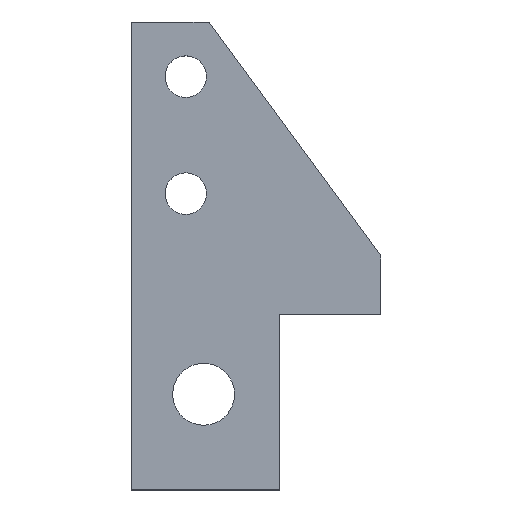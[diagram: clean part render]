
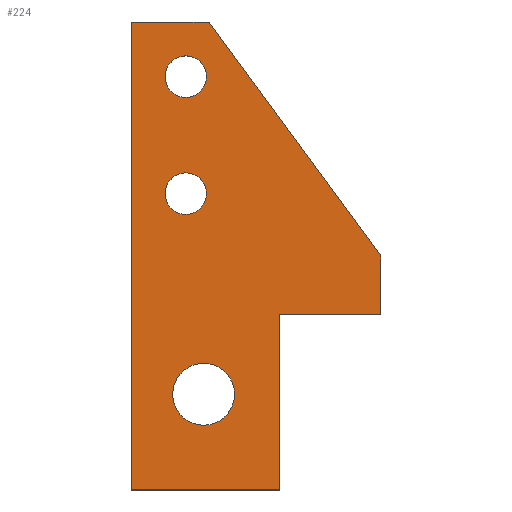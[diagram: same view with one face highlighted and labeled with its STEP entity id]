
A CAD part, top view. The second image highlights one B-rep face of the part: STEP entity #224.
In plain terms, the highlighted planar face has unit normal (0, 0, 1).
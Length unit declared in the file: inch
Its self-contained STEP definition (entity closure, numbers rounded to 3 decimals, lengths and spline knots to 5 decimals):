
#17=LINE('',#332,#38);
#21=LINE('',#339,#42);
#22=LINE('',#342,#43);
#25=LINE('',#348,#46);
#26=LINE('',#350,#47);
#27=LINE('',#352,#48);
#28=LINE('',#353,#49);
#38=VECTOR('',#274,1.125);
#42=VECTOR('',#280,0.65);
#43=VECTOR('',#283,0.95);
#46=VECTOR('',#288,0.375);
#47=VECTOR('',#289,1.86011);
#48=VECTOR('',#290,0.5);
#49=VECTOR('',#291,3.);
#60=PLANE('',#244);
#69=FACE_BOUND('',#97,.T.);
#70=FACE_BOUND('',#98,.T.);
#71=FACE_BOUND('',#99,.T.);
#81=FACE_OUTER_BOUND('',#96,.T.);
#96=EDGE_LOOP('',(#179,#180,#181,#182,#183,#184,#185));
#97=EDGE_LOOP('',(#186));
#98=EDGE_LOOP('',(#187));
#99=EDGE_LOOP('',(#188));
#108=CIRCLE('',#233,0.133);
#110=CIRCLE('',#236,0.133);
#112=CIRCLE('',#239,0.1985);
#114=VERTEX_POINT('',#311);
#116=VERTEX_POINT('',#316);
#118=VERTEX_POINT('',#321);
#122=VERTEX_POINT('',#329);
#123=VERTEX_POINT('',#331);
#125=VERTEX_POINT('',#337);
#126=VERTEX_POINT('',#341);
#128=VERTEX_POINT('',#347);
#129=VERTEX_POINT('',#349);
#130=VERTEX_POINT('',#351);
#134=EDGE_CURVE('',#114,#114,#108,.T.);
#136=EDGE_CURVE('',#116,#116,#110,.T.);
#138=EDGE_CURVE('',#118,#118,#112,.T.);
#142=EDGE_CURVE('',#123,#122,#17,.T.);
#146=EDGE_CURVE('',#122,#125,#21,.T.);
#147=EDGE_CURVE('',#126,#123,#22,.T.);
#150=EDGE_CURVE('',#125,#128,#25,.T.);
#151=EDGE_CURVE('',#128,#129,#26,.T.);
#152=EDGE_CURVE('',#129,#130,#27,.T.);
#153=EDGE_CURVE('',#130,#126,#28,.T.);
#179=ORIENTED_EDGE('',*,*,#142,.T.);
#180=ORIENTED_EDGE('',*,*,#146,.T.);
#181=ORIENTED_EDGE('',*,*,#150,.T.);
#182=ORIENTED_EDGE('',*,*,#151,.T.);
#183=ORIENTED_EDGE('',*,*,#152,.T.);
#184=ORIENTED_EDGE('',*,*,#153,.T.);
#185=ORIENTED_EDGE('',*,*,#147,.T.);
#186=ORIENTED_EDGE('',*,*,#134,.T.);
#187=ORIENTED_EDGE('',*,*,#136,.T.);
#188=ORIENTED_EDGE('',*,*,#138,.T.);
#224=ADVANCED_FACE('',(#81,#69,#70,#71),#60,.T.);
#233=AXIS2_PLACEMENT_3D('',#312,#254,#255);
#236=AXIS2_PLACEMENT_3D('',#317,#260,#261);
#239=AXIS2_PLACEMENT_3D('',#322,#266,#267);
#244=AXIS2_PLACEMENT_3D('',#346,#286,#287);
#254=DIRECTION('center_axis',(0.,0.,-1.));
#255=DIRECTION('ref_axis',(1.,0.,0.));
#260=DIRECTION('center_axis',(0.,0.,-1.));
#261=DIRECTION('ref_axis',(1.,0.,0.));
#266=DIRECTION('center_axis',(0.,0.,-1.));
#267=DIRECTION('ref_axis',(1.,0.,0.));
#274=DIRECTION('',(0.,1.,0.));
#280=DIRECTION('',(1.,0.,0.));
#283=DIRECTION('',(1.,0.,0.));
#286=DIRECTION('center_axis',(0.,0.,1.));
#287=DIRECTION('ref_axis',(1.,0.,0.));
#288=DIRECTION('',(0.,1.,0.));
#289=DIRECTION('',(-0.591,0.806,0.));
#290=DIRECTION('',(-1.,0.,0.));
#291=DIRECTION('',(0.,-1.,0.));
#311=CARTESIAN_POINT('',(0.217,1.9,0.1875));
#312=CARTESIAN_POINT('Origin',(0.35,1.9,0.1875));
#316=CARTESIAN_POINT('',(0.217,2.65,0.1875));
#317=CARTESIAN_POINT('Origin',(0.35,2.65,0.1875));
#321=CARTESIAN_POINT('',(0.26566,0.61328,0.1875));
#322=CARTESIAN_POINT('Origin',(0.46416,0.61328,0.1875));
#329=CARTESIAN_POINT('',(0.95,1.125,0.1875));
#331=CARTESIAN_POINT('',(0.95,0.,0.1875));
#332=CARTESIAN_POINT('',(0.95,0.75,0.1875));
#337=CARTESIAN_POINT('',(1.6,1.125,0.1875));
#339=CARTESIAN_POINT('',(0.875,1.125,0.1875));
#341=CARTESIAN_POINT('',(0.,0.,0.1875));
#342=CARTESIAN_POINT('',(0.,0.,0.1875));
#346=CARTESIAN_POINT('Origin',(0.8,1.5,0.1875));
#347=CARTESIAN_POINT('',(1.6,1.5,0.1875));
#348=CARTESIAN_POINT('',(1.6,0.,0.1875));
#349=CARTESIAN_POINT('',(0.5,3.,0.1875));
#350=CARTESIAN_POINT('',(1.46012,1.69075,0.1875));
#351=CARTESIAN_POINT('',(0.,3.,0.1875));
#352=CARTESIAN_POINT('',(1.6,3.,0.1875));
#353=CARTESIAN_POINT('',(0.,3.,0.1875));
